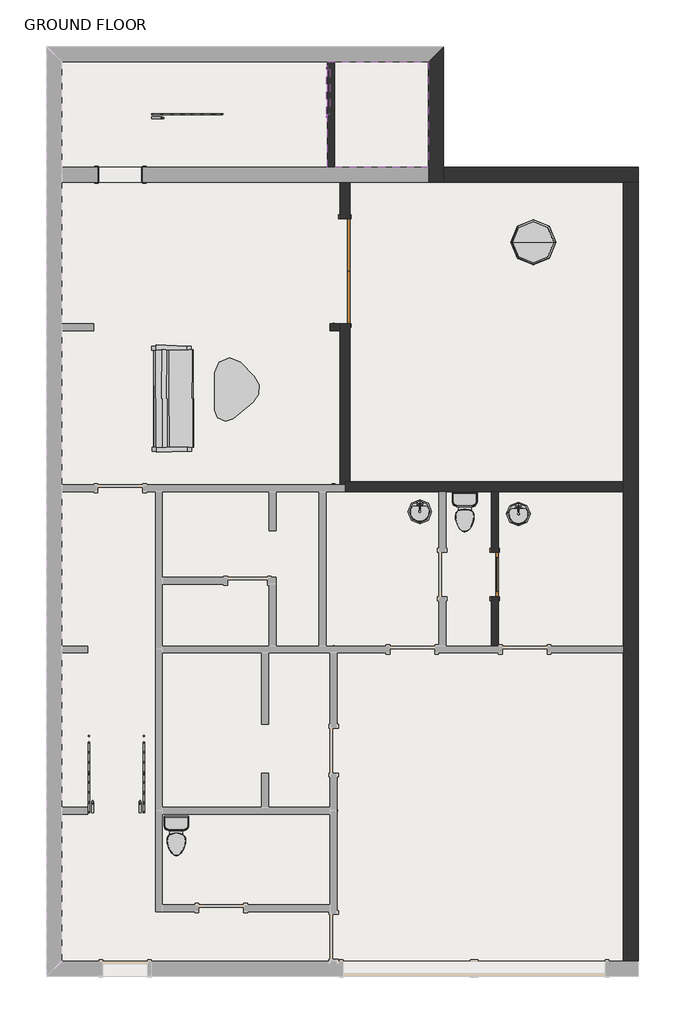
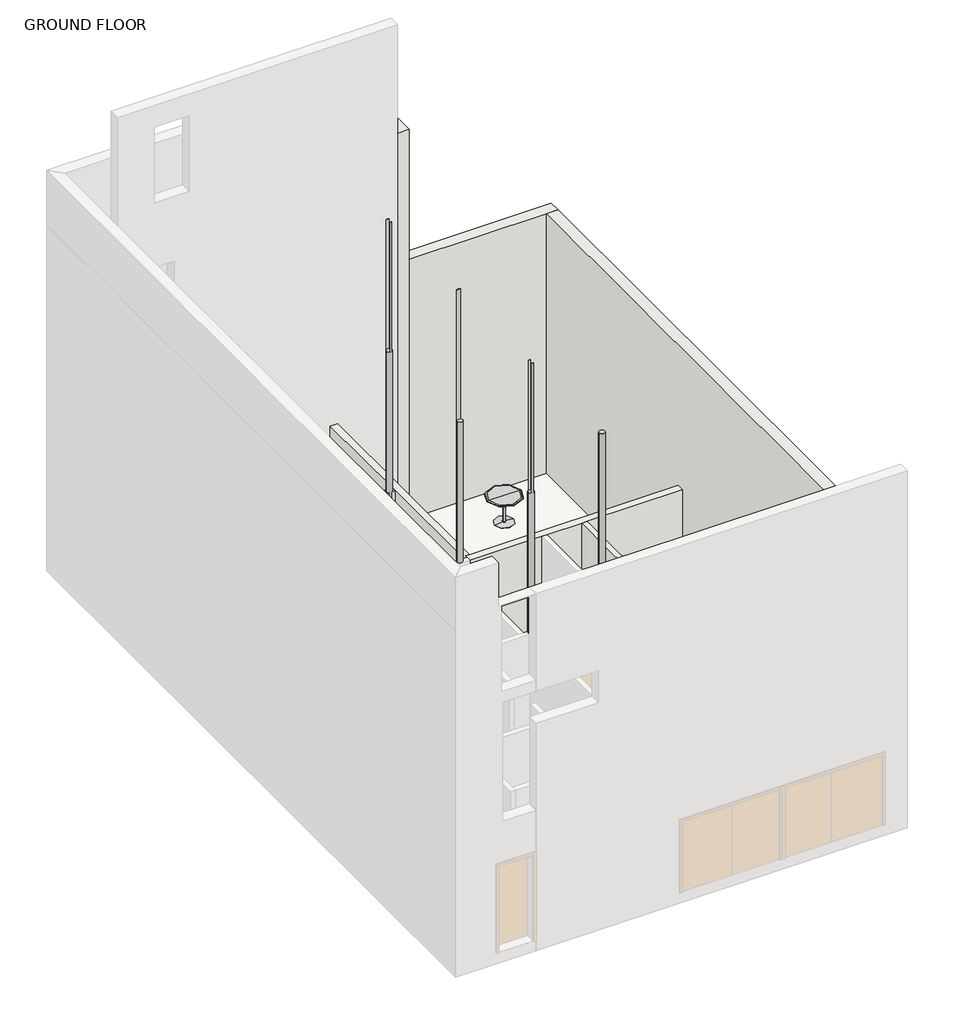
# One storey, part 2 of 2: 8 walls, 4 columns, 4 flow terminals, 3 doors, 3 furniture elements, 3 railings, 2 slabs, 1 proxy.
"""IFC4 building model written with IfcOpenShell, lengths in millimetres."""

from ifc_helpers import new_model, si_unit, frame, origin, place, context, project, spatial, polyline, circle_curve, outline, extrude, faceted_brep, transform, mapped, element, save
from ifc_brep_helpers import plane_surface, cylinder_surface, advanced_brep
from components import proxy_6a329109, double_flush_garden_door_1ae05451, door_c6edcd30, door_e49b49a8, flow_terminal_63863e58, toilet_domestic_3d_toilet_domestic_3d_29795b61, toilet_domestic_3d_toilet_domestic_3d_183bbd19, maple_legs_126f5b07, furniture_fb1f61f5, furniture_c80d6d9c, guardrail_pipe_2feb66e3, guardrail_pipe_3cf99dae, guardrail_pipe_6c1a4ac1

model = new_model("IFC4")

# Units and contexts
model_context = context("Model", 3, world=origin())
ifc_project = project(units=[si_unit("LENGTHUNIT", "METRE", prefix="MILLI")], contexts=[model_context])

# Site, building, storey
site = spatial("IfcSite", under=ifc_project)
building = spatial("IfcBuilding", under=site)
storey = spatial("IfcBuildingStorey", under=building, Name="GROUND FLOOR", Elevation=0.0)

# Proxy
placement = place(None, origin())
proxy_shape = proxy_6a329109(model_context)
element("IfcBuildingElementProxy", 1, Name="Opening-Cased : 36\" x 84\"", ObjectType="Opening-Cased : 36\" x 84\"", at=placement, inside=storey, context=model_context, shape_type="MappedRepresentation", body=[
    mapped(proxy_shape, transform((-3278.0685465, 9304.759643, 0.0), x_axis=(-1.0, 0.0, 0.0), y_axis=(0.0, -1.0, 0.0), z_axis=(0.0, 0.0, 1.0))),
])

# Columns
element("IfcColumn", 2, ObjectType="Round Column : 06\" Diameter", at=placement, inside=storey, context=model_context, shape_type="AdvancedBrep", body=[
    advanced_brep(
    [(1126.1605983, 3000.0810017, 10972.8), (1070.1560388, 3024.609643, 10972.8), (1014.1514793, 3000.0810017, 10972.8), (1013.3599122, 2999.209643, 0.0), (1070.1560388, 3024.609643, 0.0), (1126.9521654, 2999.209643, 0.0), (1126.1605983, 3000.0810017, 7315.2), (1146.3560388, 2948.409643, 7315.2), (1146.3560388, 2948.409643, 3352.8), (1126.9521654, 2999.209643, 3352.8), (1013.3599122, 2999.209643, 3352.8), (993.9560388, 2948.409643, 3352.8), (993.9560388, 2948.409643, 7315.2), (1014.1514793, 3000.0810017, 7315.2)],
    [
        (0, 1, circle_curve(frame((1070.1560388, 2948.409643, 10972.8), z_axis=(0.0, 0.0, 1.0), x_axis=(1.0, 0.0, 0.0)), 76.2)),
        (1, 2, circle_curve(frame((1070.1560388, 2948.409643, 10972.8), z_axis=(0.0, 0.0, 1.0), x_axis=(1.0, 0.0, 0.0)), 76.2)),
        (2, 0),
        (3, 4, circle_curve(frame((1070.1560388, 2948.409643, 0.0), z_axis=(0.0, 0.0, -1.0), x_axis=(1.0, 0.0, 0.0)), 76.2)),
        (4, 5, circle_curve(frame((1070.1560388, 2948.409643, 0.0), z_axis=(0.0, 0.0, -1.0), x_axis=(1.0, 0.0, 0.0)), 76.2)),
        (5, 3),
        (4, 1),
        (0, 6),
        (6, 7, circle_curve(frame((1070.1560388, 2948.409643, 7315.2), z_axis=(0.0, 0.0, -1.0), x_axis=(1.0, 0.0, 0.0)), 76.2)),
        (7, 8),
        (8, 9, circle_curve(frame((1070.1560388, 2948.409643, 3352.8), z_axis=(0.0, 0.0, 1.0), x_axis=(1.0, 0.0, 0.0)), 76.2)),
        (9, 5),
        (3, 10),
        (10, 11, circle_curve(frame((1070.1560388, 2948.409643, 3352.8), z_axis=(0.0, 0.0, 1.0), x_axis=(1.0, 0.0, 0.0)), 76.2)),
        (11, 12),
        (12, 13, circle_curve(frame((1070.1560388, 2948.409643, 7315.2), z_axis=(0.0, 0.0, -1.0), x_axis=(1.0, 0.0, 0.0)), 76.2)),
        (13, 2),
        (7, 12, circle_curve(frame((1070.1560388, 2948.409643, 7315.2), z_axis=(0.0, 0.0, -1.0), x_axis=(1.0, 0.0, 0.0)), 76.2)),
        (11, 8, circle_curve(frame((1070.1560388, 2948.409643, 3352.8), z_axis=(0.0, 0.0, 1.0), x_axis=(1.0, 0.0, 0.0)), 76.2)),
        (13, 6),
        (9, 10),
    ],
    [
        plane_surface(frame((1146.3560388, 2948.409643, 10972.8), z_axis=(0.0, 0.0, 1.0), x_axis=(0.0, 1.0, 0.0))),
        plane_surface(frame((1146.3560388, 2948.409643, 0.0), z_axis=(0.0, 0.0, -1.0), x_axis=(0.0, -1.0, 0.0))),
        cylinder_surface(frame((1070.1560388, 2948.409643, 0.0), z_axis=(0.0, 0.0, 1.0), x_axis=(1.0, 0.0, 0.0)), 76.2),
        plane_surface(frame((-4460.5633563, 3000.0810017, 7315.2), z_axis=(0.0, -1.0, 0.0), x_axis=(-1.0, 0.0, 0.0))),
        plane_surface(frame((-4619.4439612, 2860.3810017, 7315.2), z_axis=(0.0, 0.0, 1.0), x_axis=(0.0, 1.0, 0.0))),
        plane_surface(frame((841.5560388, 2999.209643, 0.0), z_axis=(0.0, -1.0, 0.0), x_axis=(-1.0, 0.0, 0.0))),
        plane_surface(frame((1298.7560388, 2859.509643, 3352.8), z_axis=(0.0, 0.0, -1.0), x_axis=(0.0, 1.0, 0.0))),
    ],
    [
        (0, [[1, 2, 3]]),
        (1, [[4, 5, 6]]),
        (2, [[7, -1, 8, 9, 10, 11, 12, -5]]),
        (2, [[-7, -4, 13, 14, 15, 16, 17, -2]]),
        (2, [[18, -15, 19, -10]]),
        (3, [[20, -8, -3, -17]]),
        (4, [[-20, -16, -18, -9]]),
        (5, [[21, -13, -6, -12]]),
        (6, [[-21, -11, -19, -14]]),
    ],
),
])
element("IfcColumn", 3, ObjectType="Round Column : 06\" Diameter", at=placement, inside=storey, context=model_context, shape_type="AdvancedBrep", body=[
    advanced_brep(
    [(1146.3560388, -3623.840357, 10972.8), (1070.1560388, -3547.640357, 10972.8), (993.9560388, -3623.840357, 10972.8), (1140.0060388, -3593.3868269, 0.0), (1146.3560388, -3623.840357, 0.0), (1140.0060388, -3654.2938872, 0.0), (1140.0060388, -3623.840357, 0.0), (1140.0060388, -3593.3868269, 3352.8), (1070.1560388, -3547.640357, 3352.8), (1000.3060388, -3593.3868269, 3352.8), (993.9560388, -3623.840357, 3352.8), (1000.3060388, -3654.2938872, 3352.8), (1140.0060388, -3654.2938872, 3352.8), (1140.0060388, -3623.840357, 3352.8), (1000.3060388, -3623.840357, 3352.8)],
    [
        (0, 1, circle_curve(frame((1070.1560388, -3623.840357, 10972.8), z_axis=(0.0, 0.0, 1.0), x_axis=(1.0, 0.0, 0.0)), 76.2)),
        (1, 2, circle_curve(frame((1070.1560388, -3623.840357, 10972.8), z_axis=(0.0, 0.0, 1.0), x_axis=(1.0, 0.0, 0.0)), 76.2)),
        (2, 0, circle_curve(frame((1070.1560388, -3623.840357, 10972.8), z_axis=(0.0, 0.0, 1.0), x_axis=(1.0, 0.0, 0.0)), 76.2)),
        (3, 4, circle_curve(frame((1070.1560388, -3623.840357, 0.0), z_axis=(0.0, 0.0, -1.0), x_axis=(1.0, 0.0, 0.0)), 76.2)),
        (4, 5, circle_curve(frame((1070.1560388, -3623.840357, 0.0), z_axis=(0.0, 0.0, -1.0), x_axis=(1.0, 0.0, 0.0)), 76.2)),
        (5, 6),
        (6, 3),
        (0, 4),
        (3, 7),
        (7, 8, circle_curve(frame((1070.1560388, -3623.840357, 3352.8), z_axis=(0.0, 0.0, 1.0), x_axis=(1.0, 0.0, 0.0)), 76.2)),
        (8, 1),
        (8, 9, circle_curve(frame((1070.1560388, -3623.840357, 3352.8), z_axis=(0.0, 0.0, 1.0), x_axis=(1.0, 0.0, 0.0)), 76.2)),
        (9, 10, circle_curve(frame((1070.1560388, -3623.840357, 3352.8), z_axis=(0.0, 0.0, 1.0), x_axis=(1.0, 0.0, 0.0)), 76.2)),
        (10, 2),
        (10, 11, circle_curve(frame((1070.1560388, -3623.840357, 3352.8), z_axis=(0.0, 0.0, 1.0), x_axis=(1.0, 0.0, 0.0)), 76.2)),
        (11, 12, circle_curve(frame((1070.1560388, -3623.840357, 3352.8), z_axis=(0.0, 0.0, 1.0), x_axis=(1.0, 0.0, 0.0)), 76.2)),
        (12, 5),
        (13, 7),
        (6, 13),
        (13, 14),
        (14, 9),
        (12, 13),
        (11, 14),
    ],
    [
        plane_surface(frame((1146.3560388, -3623.840357, 10972.8), z_axis=(0.0, 0.0, 1.0), x_axis=(0.0, 1.0, 0.0))),
        plane_surface(frame((1146.3560388, -3623.840357, 0.0), z_axis=(0.0, 0.0, -1.0), x_axis=(0.0, -1.0, 0.0))),
        cylinder_surface(frame((1070.1560388, -3623.840357, 0.0), z_axis=(0.0, 0.0, 1.0), x_axis=(1.0, 0.0, 0.0)), 76.2),
        plane_surface(frame((1140.0060388, -3623.840357, 0.0), z_axis=(-1.0, 0.0, 0.0), x_axis=(0.0, 1.0, 0.0))),
        plane_surface(frame((-4467.0439612, 11603.459643, 3352.8), z_axis=(0.0, 0.0, -1.0), x_axis=(0.0, 1.0, 0.0))),
        plane_surface(frame((1140.0060388, -5757.440357, 0.0), z_axis=(-1.0, 0.0, 0.0), x_axis=(0.0, 1.0, 0.0))),
    ],
    [
        (0, [[1, 2, 3]]),
        (1, [[4, 5, 6, 7]]),
        (2, [[-1, 8, -4, 9, 10, 11]]),
        (2, [[-2, -11, 12, 13, 14]]),
        (2, [[-3, -14, 15, 16, 17, -5, -8]]),
        (3, [[18, -9, -7, 19]]),
        (4, [[-18, 20, 21, -12, -10]]),
        (5, [[22, -19, -6, -17]]),
        (4, [[-22, -16, 23, -20]]),
        (4, [[-13, -21, -23, -15]]),
    ],
),
])
element("IfcColumn", 4, ObjectType="Round Column : 06\" Diameter", at=placement, inside=storey, context=model_context, shape_type="AdvancedBrep", body=[
    advanced_brep(
    [(1048.5848228, 6132.8766583, 10972.8), (1091.7272548, 6132.8766583, 10972.8), (1039.7025086, 6275.809643, 0.0), (1070.1560388, 6282.159643, 0.0), (1100.609569, 6275.809643, 0.0), (1070.1560388, 6282.159643, 10972.8), (1107.1508122, 6272.5766583, 10972.8), (1107.1508122, 6272.5766583, 7315.2), (1146.3560388, 6205.959643, 7315.2), (1146.3560388, 6205.959643, 3352.8), (1100.609569, 6275.809643, 3352.8), (1039.7025086, 6275.809643, 3352.8), (993.9560388, 6205.959643, 3352.8), (993.9560388, 6205.959643, 7315.2), (1033.1612654, 6272.5766583, 7315.2), (1033.1612654, 6272.5766583, 10972.8), (1048.5848228, 6132.8766583, 7315.2), (1039.7025086, 6136.109643, 3352.8), (1039.7025086, 6136.109643, 0.0), (1100.609569, 6136.109643, 0.0), (1100.609569, 6136.109643, 3352.8), (1091.7272548, 6132.8766583, 7315.2)],
    [
        (0, 1, circle_curve(frame((1070.1560388, 6205.959643, 10972.8), z_axis=(0.0, 0.0, 1.0), x_axis=(1.0, 0.0, 0.0)), 76.2)),
        (1, 0),
        (2, 3, circle_curve(frame((1070.1560388, 6205.959643, 0.0), z_axis=(0.0, 0.0, -1.0), x_axis=(1.0, 0.0, 0.0)), 76.2)),
        (3, 4, circle_curve(frame((1070.1560388, 6205.959643, 0.0), z_axis=(0.0, 0.0, -1.0), x_axis=(1.0, 0.0, 0.0)), 76.2)),
        (4, 2),
        (3, 5),
        (5, 6, circle_curve(frame((1070.1560388, 6205.959643, 10972.8), z_axis=(0.0, 0.0, -1.0), x_axis=(1.0, 0.0, 0.0)), 76.2)),
        (6, 7),
        (7, 8, circle_curve(frame((1070.1560388, 6205.959643, 7315.2), z_axis=(0.0, 0.0, -1.0), x_axis=(1.0, 0.0, 0.0)), 76.2)),
        (8, 9),
        (9, 10, circle_curve(frame((1070.1560388, 6205.959643, 3352.8), z_axis=(0.0, 0.0, 1.0), x_axis=(1.0, 0.0, 0.0)), 76.2)),
        (10, 4),
        (2, 11),
        (11, 12, circle_curve(frame((1070.1560388, 6205.959643, 3352.8), z_axis=(0.0, 0.0, 1.0), x_axis=(1.0, 0.0, 0.0)), 76.2)),
        (12, 13),
        (13, 14, circle_curve(frame((1070.1560388, 6205.959643, 7315.2), z_axis=(0.0, 0.0, -1.0), x_axis=(1.0, 0.0, 0.0)), 76.2)),
        (14, 15),
        (15, 5, circle_curve(frame((1070.1560388, 6205.959643, 10972.8), z_axis=(0.0, 0.0, -1.0), x_axis=(1.0, 0.0, 0.0)), 76.2)),
        (0, 16),
        (16, 13, circle_curve(frame((1070.1560388, 6205.959643, 7315.2), z_axis=(0.0, 0.0, -1.0), x_axis=(1.0, 0.0, 0.0)), 76.2)),
        (12, 17, circle_curve(frame((1070.1560388, 6205.959643, 3352.8), z_axis=(0.0, 0.0, 1.0), x_axis=(1.0, 0.0, 0.0)), 76.2)),
        (17, 18),
        (18, 19, circle_curve(frame((1070.1560388, 6205.959643, 0.0), z_axis=(0.0, 0.0, 1.0), x_axis=(1.0, 0.0, 0.0)), 76.2)),
        (19, 20),
        (20, 9, circle_curve(frame((1070.1560388, 6205.959643, 3352.8), z_axis=(0.0, 0.0, 1.0), x_axis=(1.0, 0.0, 0.0)), 76.2)),
        (8, 21, circle_curve(frame((1070.1560388, 6205.959643, 7315.2), z_axis=(0.0, 0.0, -1.0), x_axis=(1.0, 0.0, 0.0)), 76.2)),
        (21, 1),
        (14, 7),
        (6, 15),
        (21, 16),
        (17, 20),
        (19, 18),
        (10, 11),
    ],
    [
        plane_surface(frame((1146.3560388, 6205.959643, 10972.8), z_axis=(0.0, 0.0, 1.0), x_axis=(0.0, 1.0, 0.0))),
        plane_surface(frame((1146.3560388, 6205.959643, 0.0), z_axis=(0.0, 0.0, -1.0), x_axis=(0.0, -1.0, 0.0))),
        cylinder_surface(frame((1070.1560388, 6205.959643, 0.0), z_axis=(0.0, 0.0, 1.0), x_axis=(1.0, 0.0, 0.0)), 76.2),
        plane_surface(frame((1302.1201102, 6272.5766583, 7315.2), z_axis=(0.0, -1.0, 0.0), x_axis=(-1.0, 0.0, 0.0))),
        plane_surface(frame((1302.1201102, 6132.8766583, 7315.2), z_axis=(0.0, 1.0, 0.0), x_axis=(1.0, 0.0, 0.0))),
        plane_surface(frame((1628.9560388, 6272.5766583, 7315.2), z_axis=(0.0, 0.0, 1.0), x_axis=(0.0, -1.0, 0.0))),
        plane_surface(frame((993.9560388, 6136.109643, 0.0), z_axis=(0.0, 1.0, 0.0), x_axis=(1.0, 0.0, 0.0))),
        plane_surface(frame((993.9560388, 6275.809643, 0.0), z_axis=(0.0, -1.0, 0.0), x_axis=(-1.0, 0.0, 0.0))),
        plane_surface(frame((-4467.0439612, 11603.459643, 3352.8), z_axis=(0.0, 0.0, -1.0), x_axis=(0.0, 1.0, 0.0))),
    ],
    [
        (0, [[1, 2]]),
        (1, [[3, 4, 5]]),
        (2, [[6, 7, 8, 9, 10, 11, 12, -4]]),
        (2, [[-6, -3, 13, 14, 15, 16, 17, 18]]),
        (2, [[-1, 19, 20, -15, 21, 22, 23, 24, 25, -10, 26, 27]]),
        (3, [[28, -8, 29, -17]]),
        (4, [[30, -19, -2, -27]]),
        (5, [[-28, -16, -20, -30, -26, -9]]),
        (0, [[-7, -18, -29]]),
        (6, [[31, -24, 32, -22]]),
        (7, [[33, -13, -5, -12]]),
        (8, [[-31, -21, -14, -33, -11, -25]]),
        (1, [[-23, -32]]),
    ],
),
])
element("IfcColumn", 5, ObjectType="Round Column : 06\" Diameter", at=placement, inside=storey, context=model_context, shape_type="AdvancedBrep", body=[
    advanced_brep(
    [(1037.7772332, -416.2189983, 10972.8), (1102.5348444, -416.2189983, 10972.8), (1039.7025086, -277.390357, 0.0), (1070.1560388, -271.040357, 0.0), (1100.609569, -277.390357, 0.0), (1070.1560388, -271.040357, 10972.8), (1098.5273168, -276.5189983, 10972.8), (1098.5273168, -276.5189983, 7315.2), (1146.3560388, -347.240357, 7315.2), (1146.3560388, -347.240357, 3352.8), (1100.609569, -277.390357, 3352.8), (1039.7025086, -277.390357, 3352.8), (993.9560388, -347.240357, 3352.8), (993.9560388, -347.240357, 7315.2), (1041.7847608, -276.5189983, 7315.2), (1041.7847608, -276.5189983, 10972.8), (1037.7772332, -416.2189983, 7315.2), (1039.7025086, -417.090357, 3352.8), (1100.609569, -417.090357, 3352.8), (1102.5348444, -416.2189983, 7315.2)],
    [
        (0, 1, circle_curve(frame((1070.1560388, -347.240357, 10972.8), z_axis=(0.0, 0.0, 1.0), x_axis=(1.0, 0.0, 0.0)), 76.2)),
        (1, 0),
        (2, 3, circle_curve(frame((1070.1560388, -347.240357, 0.0), z_axis=(0.0, 0.0, -1.0), x_axis=(1.0, 0.0, 0.0)), 76.2)),
        (3, 4, circle_curve(frame((1070.1560388, -347.240357, 0.0), z_axis=(0.0, 0.0, -1.0), x_axis=(1.0, 0.0, 0.0)), 76.2)),
        (4, 2),
        (3, 5),
        (5, 6, circle_curve(frame((1070.1560388, -347.240357, 10972.8), z_axis=(0.0, 0.0, -1.0), x_axis=(1.0, 0.0, 0.0)), 76.2)),
        (6, 7),
        (7, 8, circle_curve(frame((1070.1560388, -347.240357, 7315.2), z_axis=(0.0, 0.0, -1.0), x_axis=(1.0, 0.0, 0.0)), 76.2)),
        (8, 9),
        (9, 10, circle_curve(frame((1070.1560388, -347.240357, 3352.8), z_axis=(0.0, 0.0, 1.0), x_axis=(1.0, 0.0, 0.0)), 76.2)),
        (10, 4),
        (2, 11),
        (11, 12, circle_curve(frame((1070.1560388, -347.240357, 3352.8), z_axis=(0.0, 0.0, 1.0), x_axis=(1.0, 0.0, 0.0)), 76.2)),
        (12, 13),
        (13, 14, circle_curve(frame((1070.1560388, -347.240357, 7315.2), z_axis=(0.0, 0.0, -1.0), x_axis=(1.0, 0.0, 0.0)), 76.2)),
        (14, 15),
        (15, 5, circle_curve(frame((1070.1560388, -347.240357, 10972.8), z_axis=(0.0, 0.0, -1.0), x_axis=(1.0, 0.0, 0.0)), 76.2)),
        (0, 16),
        (16, 13, circle_curve(frame((1070.1560388, -347.240357, 7315.2), z_axis=(0.0, 0.0, -1.0), x_axis=(1.0, 0.0, 0.0)), 76.2)),
        (12, 17, circle_curve(frame((1070.1560388, -347.240357, 3352.8), z_axis=(0.0, 0.0, 1.0), x_axis=(1.0, 0.0, 0.0)), 76.2)),
        (17, 18, circle_curve(frame((1070.1560388, -347.240357, 3352.8), z_axis=(0.0, 0.0, 1.0), x_axis=(1.0, 0.0, 0.0)), 76.2)),
        (18, 9, circle_curve(frame((1070.1560388, -347.240357, 3352.8), z_axis=(0.0, 0.0, 1.0), x_axis=(1.0, 0.0, 0.0)), 76.2)),
        (8, 19, circle_curve(frame((1070.1560388, -347.240357, 7315.2), z_axis=(0.0, 0.0, -1.0), x_axis=(1.0, 0.0, 0.0)), 76.2)),
        (19, 1),
        (19, 16),
        (14, 7),
        (6, 15),
        (10, 11),
        (18, 17),
    ],
    [
        plane_surface(frame((1146.3560388, -347.240357, 10972.8), z_axis=(0.0, 0.0, 1.0), x_axis=(0.0, 1.0, 0.0))),
        plane_surface(frame((1146.3560388, -347.240357, 0.0), z_axis=(0.0, 0.0, -1.0), x_axis=(0.0, -1.0, 0.0))),
        cylinder_surface(frame((1070.1560388, -347.240357, 0.0), z_axis=(0.0, 0.0, 1.0), x_axis=(1.0, 0.0, 0.0)), 76.2),
        plane_surface(frame((-2203.0798898, -416.2189983, 7315.2), z_axis=(0.0, 1.0, 0.0), x_axis=(1.0, 0.0, 0.0))),
        plane_surface(frame((-2203.0798898, -276.5189983, 7315.2), z_axis=(0.0, -1.0, 0.0), x_axis=(-1.0, 0.0, 0.0))),
        plane_surface(frame((-4619.4439612, -416.2189983, 7315.2), z_axis=(0.0, 0.0, 1.0), x_axis=(0.0, 1.0, 0.0))),
        plane_surface(frame((7115.3560388, -277.390357, 0.0), z_axis=(0.0, -1.0, 0.0), x_axis=(-1.0, 0.0, 0.0))),
        plane_surface(frame((-4467.0439612, 11603.459643, 3352.8), z_axis=(0.0, 0.0, -1.0), x_axis=(0.0, 1.0, 0.0))),
    ],
    [
        (0, [[1, 2]]),
        (1, [[3, 4, 5]]),
        (2, [[6, 7, 8, 9, 10, 11, 12, -4]]),
        (2, [[-6, -3, 13, 14, 15, 16, 17, 18]]),
        (2, [[-1, 19, 20, -15, 21, 22, 23, -10, 24, 25]]),
        (3, [[26, -19, -2, -25]]),
        (4, [[27, -8, 28, -17]]),
        (5, [[-26, -24, -9, -27, -16, -20]]),
        (0, [[-7, -18, -28]]),
        (6, [[29, -13, -5, -12]]),
        (7, [[-29, -11, -23, 30, -21, -14]]),
        (7, [[-22, -30]]),
    ],
),
])

# Doors
double_flush_garden_door_shape = double_flush_garden_door_1ae05451(model_context)
element("IfcDoor", 6, ObjectType="Double-Flush : Garden Door", at=placement, inside=storey, context=model_context, shape_type="MappedRepresentation", body=[
    mapped(double_flush_garden_door_shape, transform((1298.7560388, 7342.609643, 0.0), x_axis=(0.0, -1.0, 0.0), y_axis=(1.0, 0.0, 0.0), z_axis=(0.0, 0.0, 1.0))),
])
door_shape = door_c6edcd30(model_context)
element("IfcDoor", 7, ObjectType="Single-Flush : 36\" x 84\"", at=placement, inside=storey, context=model_context, shape_type="MappedRepresentation", body=[
    mapped(door_shape, transform((1019.3560388, 10993.859643, 1828.8), x_axis=(0.0, 1.0, 0.0), y_axis=(-1.0, 0.0, 0.0), z_axis=(0.0, 0.0, 1.0))),
])
door_2_shape = door_e49b49a8(model_context)
element("IfcDoor", 8, ObjectType="Single-Glass 1 : 36\" x 84\"", at=placement, inside=storey, context=model_context, shape_type="MappedRepresentation", body=[
    mapped(door_2_shape, transform((4346.7560388, 1176.759643, 0.0), x_axis=(0.0, -1.0, 0.0), y_axis=(1.0, 0.0, 0.0), z_axis=(0.0, 0.0, 1.0))),
])

# Flow terminals
flow_terminal_shape = flow_terminal_63863e58(model_context)
element("IfcFlowTerminal", 9, ObjectType="Sink Vanity-Round : 19\" x 19\"", at=placement, inside=storey, context=model_context, shape_type="MappedRepresentation", body=[
    mapped(flow_terminal_shape, transform((2726.1042982, 2368.8411217, 0.0), x_axis=(1.0, 0.0, 0.0), y_axis=(0.0, 1.0, 0.0), z_axis=(0.0, 0.0, 1.0))),
])
element("IfcFlowTerminal", 10, ObjectType="Sink Vanity-Round : 19\" x 19\"", at=placement, inside=storey, context=model_context, shape_type="MappedRepresentation", body=[
    mapped(flow_terminal_shape, transform((4732.7042982, 2322.5501904, 0.0), x_axis=(1.0, 0.0, 0.0), y_axis=(0.0, 1.0, 0.0), z_axis=(0.0, 0.0, 1.0))),
])
toilet_domestic_3d_toilet_domestic_3d_shape = toilet_domestic_3d_toilet_domestic_3d_29795b61(model_context)
toilet_domestic_3d_toilet_domestic_3d_2_shape = toilet_domestic_3d_toilet_domestic_3d_183bbd19(model_context)
element("IfcFlowTerminal", 11, ObjectType="Toilet-Domestic-3D : Toilet-Domestic-3D", at=placement, inside=storey, context=model_context, shape_type="MappedRepresentation", body=[
    mapped(toilet_domestic_3d_toilet_domestic_3d_shape, transform((-2130.2439612, -4233.440357, 0.0), x_axis=(1.0, 0.0, 0.0), y_axis=(0.0, 1.0, 0.0), z_axis=(0.0, 0.0, 1.0))),
    mapped(toilet_domestic_3d_toilet_domestic_3d_2_shape, transform((-2130.2439612, -4233.440357, 0.0), x_axis=(1.0, 0.0, 0.0), y_axis=(0.0, 1.0, 0.0), z_axis=(0.0, 0.0, 1.0))),
])
element("IfcFlowTerminal", 12, ObjectType="Toilet-Domestic-3D : Toilet-Domestic-3D", at=placement, inside=storey, context=model_context, shape_type="MappedRepresentation", body=[
    mapped(toilet_domestic_3d_toilet_domestic_3d_shape, transform((3737.1560388, 2351.509643, 0.0), x_axis=(1.0, 0.0, 0.0), y_axis=(0.0, 1.0, 0.0), z_axis=(0.0, 0.0, 1.0))),
    mapped(toilet_domestic_3d_toilet_domestic_3d_2_shape, transform((3737.1560388, 2351.509643, 0.0), x_axis=(1.0, 0.0, 0.0), y_axis=(0.0, 1.0, 0.0), z_axis=(0.0, 0.0, 1.0))),
])

# Furniture
maple_legs_shape = maple_legs_126f5b07(model_context)
element("IfcFurniture", 13, ObjectType="Noguchi Table : Maple Legs", at=placement, inside=storey, context=model_context, shape_type="MappedRepresentation", body=[
    mapped(maple_legs_shape, transform((-994.9968153, 4873.3273238, 0.0), x_axis=(0.0, -1.0, 0.0), y_axis=(1.0, 0.0, 0.0), z_axis=(0.0, 0.0, 1.0))),
])
furniture_shape = furniture_fb1f61f5(model_context)
element("IfcFurniture", 14, ObjectType="Sofa-Pensi : 84\"", at=placement, inside=storey, context=model_context, shape_type="MappedRepresentation", body=[
    mapped(furniture_shape, transform((-1922.3658137, 4474.3405419, 0.0), x_axis=(-0.0045481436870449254, 0.9999896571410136, 0.0), y_axis=(-0.9999896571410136, -0.0045481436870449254, 0.0), z_axis=(0.0, 0.0, 1.0))),
])
furniture_2_shape = furniture_c80d6d9c(model_context)
element("IfcFurniture", 15, ObjectType="Table-Round : 36\" Diameter", at=placement, inside=storey, context=model_context, shape_type="MappedRepresentation", body=[
    mapped(furniture_2_shape, transform((5134.1560388, 7933.159643, 0.0), x_axis=(1.0, 0.0, 0.0), y_axis=(0.0, 1.0, 0.0), z_axis=(0.0, 0.0, 1.0))),
])

# Railings
guardrail_pipe_shape = guardrail_pipe_2feb66e3(model_context)
element("IfcRailing", 16, ObjectType="Guardrail - Pipe", at=placement, inside=storey, context=model_context, shape_type="MappedRepresentation", body=[
    mapped(guardrail_pipe_shape, transform((0.0, 0.0, 0.0), x_axis=(1.0, 0.0, 0.0), y_axis=(0.0, 1.0, 0.0), z_axis=(0.0, 0.0, 1.0))),
])
guardrail_pipe_2_shape = guardrail_pipe_3cf99dae(model_context)
element("IfcRailing", 17, ObjectType="Guardrail - Pipe", at=placement, inside=storey, context=model_context, shape_type="MappedRepresentation", body=[
    mapped(guardrail_pipe_2_shape, transform((0.0, 0.0, 0.0), x_axis=(1.0, 0.0, 0.0), y_axis=(0.0, 1.0, 0.0), z_axis=(0.0, 0.0, 1.0))),
])
guardrail_pipe_3_shape = guardrail_pipe_6c1a4ac1(model_context)
element("IfcRailing", 18, ObjectType="Guardrail - Pipe", at=placement, inside=storey, context=model_context, shape_type="MappedRepresentation", body=[
    mapped(guardrail_pipe_3_shape, transform((0.0, 0.0, 0.0), x_axis=(1.0, 0.0, 0.0), y_axis=(0.0, 1.0, 0.0), z_axis=(0.0, 0.0, 1.0))),
])

# Slabs
element("IfcSlab", 19, ObjectType="Generic - 12\"", at=placement, inside=storey, context=model_context, shape_type="SweptSolid", body=[
    extrude(outline(polyline([(3000.5560388, 11603.459643), (3000.5560388, 9457.159643), (949.5060388, 9457.159643), (949.5060388, 11603.459643), (3000.5560388, 11603.459643)])), frame((0.0, 0.0, 1524.0), z_axis=(0.0, 0.0, 1.0), x_axis=(1.0, 0.0, 0.0)), (0.0, 0.0, 1.0), 304.8),
])
element("IfcSlab", 20, ObjectType="Generic - 12\"", at=placement, inside=storey, context=model_context, shape_type="SweptSolid", body=[
    extrude(outline(polyline([(-4467.0439612, 11603.459643), (3000.5560388, 11603.459643), (3000.5560388, 9152.359643), (6962.9560388, 9152.359643), (6962.9560388, -6684.540357), (-2638.2439612, -6684.540357), (-4467.0439612, -6684.540357), (-4467.0439612, 11603.459643)])), frame((0.0, 0.0, -304.8), z_axis=(0.0, 0.0, 1.0), x_axis=(1.0, 0.0, 0.0)), (0.0, 0.0, 1.0), 304.8),
])

# Walls
element("IfcWall", 21, ObjectType="Cast Concrete Wall 12\"", at=placement, inside=storey, context=model_context, shape_type="Brep", body=[
    faceted_brep([(3000.5560388, 11603.459643, -304.8), (3000.5560388, 9457.159643, -304.8), (3000.5560388, 9152.359643, -304.8), (3000.5560388, 9152.359643, 10972.8), (3000.5560388, 11603.459643, 10972.8), (3305.3560388, 11908.259643, -304.8), (3305.3560388, 11908.259643, 10972.8), (3305.3560388, 9152.359643, 10972.8), (3305.3560388, 9152.359643, 7315.2), (3305.3560388, 9152.359643, -304.8), (3305.3560388, 9457.159643, -304.8)], [[[0, 1, 2, 3, 4]], [[5, 6, 7, 8, 9, 10]], [[2, 1, 0, 5, 10, 9]], [[4, 3, 7, 6]], [[2, 9, 8, 7, 3]], [[0, 4, 6, 5]]]),
])
element("IfcWall", 22, ObjectType="Cast Concrete Wall 12\"", at=placement, inside=storey, context=model_context, shape_type="Brep", body=[
    faceted_brep([(3305.3560388, 9152.359643, -304.8), (6962.9560388, 9152.359643, -304.8), (7267.7560388, 9152.359643, -304.8), (7267.7560388, 9152.359643, 7315.2), (6962.9560388, 9152.359643, 7315.2), (3305.3560388, 9152.359643, 7315.2), (3305.3560388, 9457.159643, -304.8), (3305.3560388, 9457.159643, 7315.2), (7267.7560388, 9457.159643, 7315.2), (7267.7560388, 9457.159643, -304.8)], [[[0, 1, 2, 3, 4, 5]], [[6, 7, 8, 9]], [[2, 1, 0, 6, 9]], [[5, 4, 3, 8, 7]], [[3, 2, 9, 8]], [[0, 5, 7, 6]]]),
])
element("IfcWall", 23, ObjectType="Cast Concrete Wall 12\"", at=placement, inside=storey, context=model_context, shape_type="SweptSolid", body=[
    extrude(outline(polyline([(6962.9560388, -6684.540357), (6962.9560388, 9152.359643), (7267.7560388, 9152.359643), (7267.7560388, -6684.540357), (6962.9560388, -6684.540357)])), frame((0.0, 0.0, -304.8), z_axis=(0.0, 0.0, 1.0), x_axis=(1.0, 0.0, 0.0)), (0.0, 0.0, 1.0), 7620.0),
])
element("IfcWall", 24, ObjectType="Generic - 8\"", at=placement, inside=storey, context=model_context, shape_type="Brep", body=[
    faceted_brep([(1197.1560388, 6275.809643, 1981.2), (1197.1560388, 6275.809643, 0.0), (1197.1560388, 6136.109643, 0.0), (1197.1560388, 2999.209643, 0.0), (1197.1560388, 2999.209643, 3352.8), (1197.1560388, 6136.109643, 3352.8), (1197.1560388, 6275.809643, 3352.8), (1197.1560388, 9152.359643, 3352.8), (1197.1560388, 9152.359643, 0.0), (1197.1560388, 8409.409643, 0.0), (1197.1560388, 8409.409643, 1981.2), (1400.3560388, 3062.709643, 0.0), (1400.3560388, 6275.809643, 0.0), (1400.3560388, 6275.809643, 1981.2), (1400.3560388, 8409.409643, 1981.2), (1400.3560388, 8409.409643, 0.0), (1400.3560388, 9152.359643, 0.0), (1400.3560388, 9152.359643, 3352.8), (1400.3560388, 3062.709643, 3352.8), (1298.7560388, 3062.709643, 0.0), (1298.7560388, 2999.209643, 0.0), (1298.7560388, 2999.209643, 3352.8), (1298.7560388, 3062.709643, 3352.8)], [[[0, 1, 2, 3, 4, 5, 6, 7, 8, 9, 10]], [[11, 12, 13, 14, 15, 16, 17, 18]], [[3, 2, 1, 12, 11, 19, 20]], [[9, 8, 16, 15]], [[4, 3, 20, 21]], [[20, 19, 22, 21]], [[19, 11, 18, 22]], [[8, 7, 17, 16]], [[7, 6, 5, 4, 21, 22, 18, 17]], [[13, 12, 1, 0]], [[14, 13, 0, 10]], [[15, 14, 10, 9]]]),
])
element("IfcWall", 25, ObjectType="Generic - 8\"", at=placement, inside=storey, context=model_context, shape_type="Brep", body=[
    faceted_brep([(1298.7560388, 2859.509643, 0.0), (3210.1060388, 2859.509643, 0.0), (3349.8060388, 2859.509643, 0.0), (4276.9060388, 2859.509643, 0.0), (4416.6060388, 2859.509643, 0.0), (6962.9560388, 2859.509643, 0.0), (6962.9560388, 2859.509643, 3352.8), (4416.6060388, 2859.509643, 3352.8), (4276.9060388, 2859.509643, 3352.8), (3349.8060388, 2859.509643, 3352.8), (3210.1060388, 2859.509643, 3352.8), (1298.7560388, 2859.509643, 3352.8), (1298.7560388, 3062.709643, 0.0), (1298.7560388, 3062.709643, 3352.8), (1400.3560388, 3062.709643, 3352.8), (6962.9560388, 3062.709643, 3352.8), (6962.9560388, 3062.709643, 0.0), (1400.3560388, 3062.709643, 0.0), (1298.7560388, 2999.209643, 0.0), (1298.7560388, 2999.209643, 3352.8)], [[[0, 1, 2, 3, 4, 5, 6, 7, 8, 9, 10, 11]], [[12, 13, 14, 15, 16, 17]], [[5, 4, 3, 2, 1, 0, 18, 12, 17, 16]], [[11, 10, 9, 8, 7, 6, 15, 14, 13, 19]], [[0, 11, 19, 13, 12, 18]], [[6, 5, 16, 15]]]),
])
element("IfcWall", 26, ObjectType="Interior - 5 1/2\" Partition (1-hr)", at=placement, inside=storey, context=model_context, shape_type="Brep", body=[
    faceted_brep([(993.9560388, 6136.109643, 0.0), (1039.7025086, 6136.109643, 0.0), (1100.609569, 6136.109643, 0.0), (1197.1560388, 6136.109643, 0.0), (1197.1560388, 6136.109643, 3352.8), (993.9560388, 6136.109643, 3352.8), (993.9560388, 6275.809643, 0.0), (993.9560388, 6275.809643, 3352.8), (1197.1560388, 6275.809643, 3352.8), (1197.1560388, 6275.809643, 1981.2), (1197.1560388, 6275.809643, 0.0), (1100.609569, 6275.809643, 0.0), (1039.7025086, 6275.809643, 0.0)], [[[0, 1, 2, 3, 4, 5]], [[6, 7, 8, 9, 10, 11, 12]], [[3, 2, 1, 0, 6, 12, 11, 10]], [[0, 5, 7, 6]], [[4, 3, 10, 9, 8]], [[5, 4, 8, 7]]]),
])
element("IfcWall", 27, ObjectType="Interior - 5 1/2\" Partition (1-hr)", at=placement, inside=storey, context=model_context, shape_type="SweptSolid", body=[
    extrude(outline(polyline([(11603.459643, 0.0), (9457.159643, 0.0), (9457.159643, 3657.6), (10536.659643, 3657.6), (10536.659643, 1828.8), (11451.059643, 1828.8), (11451.059643, 3657.6), (11603.459643, 3657.6), (11603.459643, 0.0)])), frame((949.5060388, 0.0, 0.0), z_axis=(1.0, 0.0, 0.0), x_axis=(0.0, 1.0, 0.0)), (0.0, 0.0, 1.0), 139.7),
])
element("IfcWall", 28, ObjectType="Interior - 5 1/2\" Partition (1-hr)", at=placement, inside=storey, context=model_context, shape_type="SweptSolid", body=[
    extrude(outline(polyline([(719.559643, 2133.6), (719.559643, 0.0), (-277.390357, 0.0), (-277.390357, 3352.8), (2859.509643, 3352.8), (2859.509643, 0.0), (1633.959643, 0.0), (1633.959643, 2133.6), (719.559643, 2133.6)])), frame((4276.9060388, 0.0, 0.0), z_axis=(1.0, 0.0, 0.0), x_axis=(0.0, 1.0, 0.0)), (0.0, 0.0, 1.0), 139.7),
])

save(model, "model.ifc")
